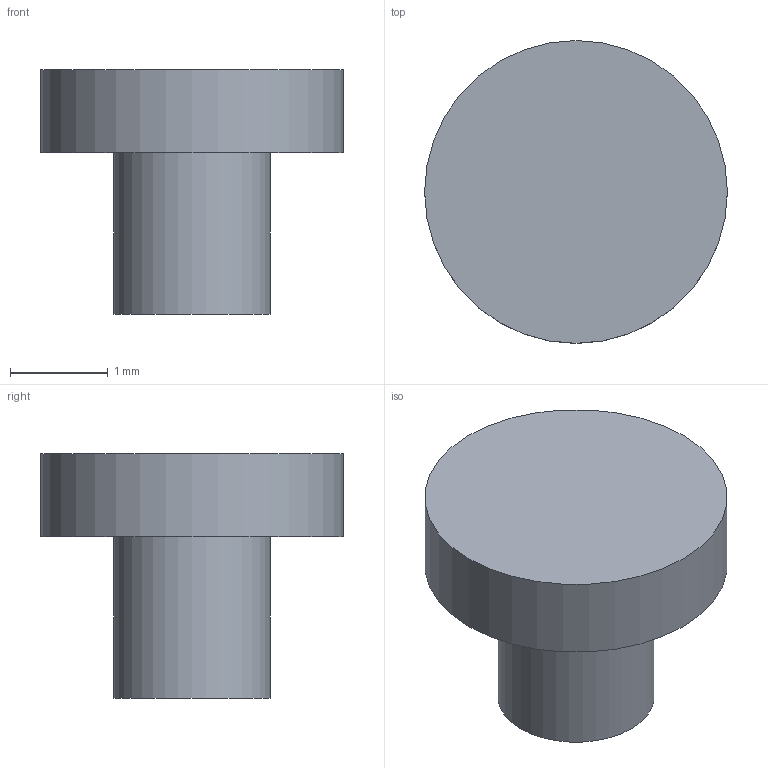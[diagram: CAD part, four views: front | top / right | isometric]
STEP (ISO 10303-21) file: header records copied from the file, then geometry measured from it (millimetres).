
FILE_DESCRIPTION(('Open CASCADE Model'),'2;1');
FILE_NAME('cradle_screw_2','2026-11-19T17:25:15',('Author'),( 'Open CASCADE'),'Open CASCADE STEP processor 7.8','build123d', 'Unknown');
FILE_SCHEMA(('AUTOMOTIVE_DESIGN { 1 0 10303 214 1 1 1 1 }'));
Length unit declared in the file: millimetre
Products named in the file (1): cradle_screw_2
Bounding box: 3.1 x 3.1 x 2.51 mm (x, y, z)
Volume: 9.7 mm3; surface area: 31.7 mm2
Topology: 1 solids, 1 shells, 5 faces, 6 edges, 4 vertices
Faces by surface type: plane 3, cylinder 2
Full cylindrical faces by diameter (mm): 1.6 x1, 3.1 x1
Entity records: 201 total; most frequent: DIRECTION 34, CARTESIAN_POINT 28, ORIENTED_EDGE 12, PCURVE 12, DEFINITIONAL_REPRESENTATION 12, AXIS2_PLACEMENT_3D 10, LINE 10, VECTOR 10
